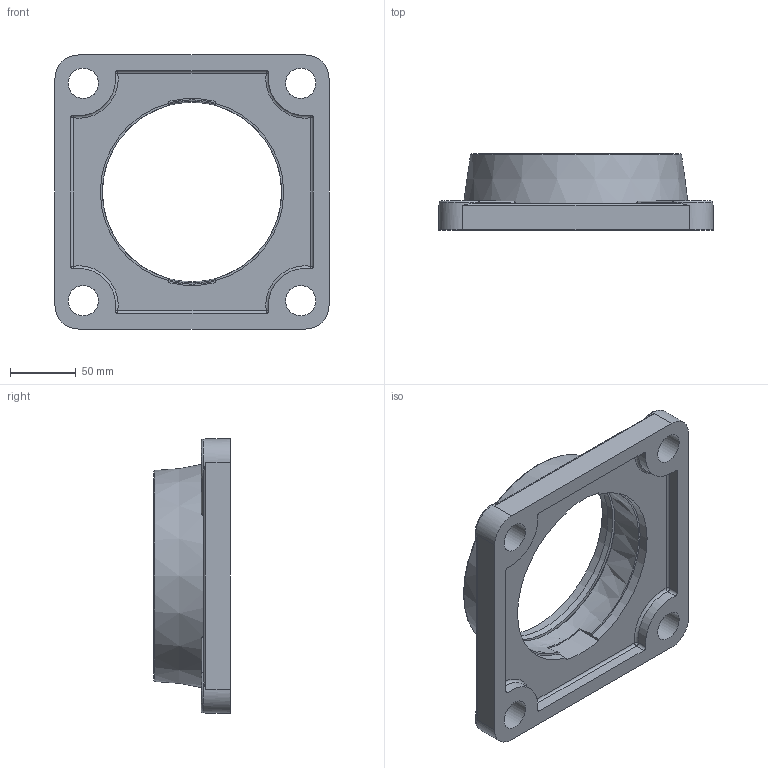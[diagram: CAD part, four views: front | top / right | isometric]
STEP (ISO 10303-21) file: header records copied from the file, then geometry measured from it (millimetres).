
FILE_DESCRIPTION(/* description */ (''),/* implementation_level */ '2;1');
FILE_NAME(/* name */ 'C:\MOJE SUBORY\03_Doplnenie 3D modelov\fgc\FG216.stp',/* time_stamp */ '2020-12-09T13:59:06+01:00',/* author */ ('OUPIONTEKM'),/* organization */ (''),/* preprocessor_version */ 'ST-DEVELOPER v18.1',/* originating_system */ 'Autodesk Inventor 2021',/* authorisation */ '');
FILE_SCHEMA (('AUTOMOTIVE_DESIGN { 1 0 10303 214 3 1 1 }'));
Length unit declared in the file: millimetre
Products named in the file (1): FG208
Bounding box: 208 x 58 x 208 mm (x, y, z)
Volume: 623979.1 mm3; surface area: 122932.6 mm2
Topology: 1 solids, 1 shells, 104 faces, 254 edges, 157 vertices
Faces by surface type: cylinder 46, plane 38, sphere 10, torus 9, cone 1
Full cylindrical faces by diameter (mm): 23 x4, 139.055 x1, 142.871 x1
Entity records: 3226 total; most frequent: CARTESIAN_POINT 658, DIRECTION 567, ORIENTED_EDGE 504, EDGE_CURVE 252, AXIS2_PLACEMENT_3D 226, VERTEX_POINT 157, EDGE_LOOP 121, CIRCLE 121
